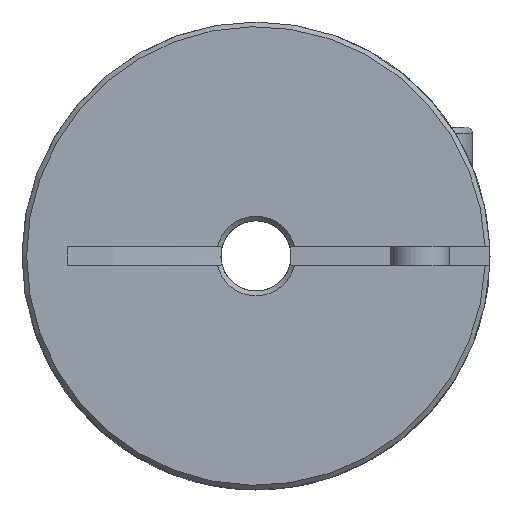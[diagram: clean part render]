
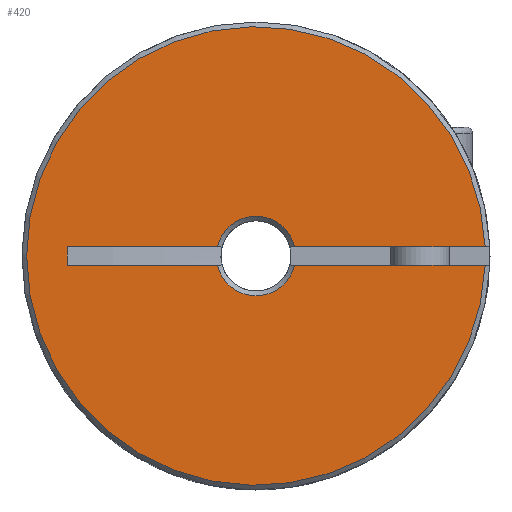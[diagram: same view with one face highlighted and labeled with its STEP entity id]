
A CAD part, left-side view. The second image highlights one B-rep face of the part: STEP entity #420.
In plain terms, the highlighted planar face has unit normal (-1, 0, 0).
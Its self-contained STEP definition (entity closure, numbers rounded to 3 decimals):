
#420 = ADVANCED_FACE( 'NONE', ( #880 ), #881, .F. );
#880 = FACE_OUTER_BOUND( '', #1315, .T. );
#881 = PLANE( '', #1316 );
#1315 = EDGE_LOOP( '', ( #2043, #2044, #2045, #2046, #2047, #2048, #2049, #2050 ) );
#1316 = AXIS2_PLACEMENT_3D( '', #2051, #2052, #2053 );
#2043 = ORIENTED_EDGE( '', *, *, #2170, .T. );
#2044 = ORIENTED_EDGE( '', *, *, #2335, .T. );
#2045 = ORIENTED_EDGE( '', *, *, #2115, .T. );
#2046 = ORIENTED_EDGE( '', *, *, #2325, .T. );
#2047 = ORIENTED_EDGE( '', *, *, #2218, .F. );
#2048 = ORIENTED_EDGE( '', *, *, #2075, .T. );
#2049 = ORIENTED_EDGE( '', *, *, #2147, .F. );
#2050 = ORIENTED_EDGE( '', *, *, #2266, .T. );
#2051 = CARTESIAN_POINT( '', ( 0., 1.5, 0. ) );
#2052 = DIRECTION( '', ( 1., 0., 0. ) );
#2053 = DIRECTION( '', ( 0., 1., 0. ) );
#2075 = EDGE_CURVE( 'NONE', #2345, #2342, #2346, .T. );
#2115 = EDGE_CURVE( 'NONE', #2410, #2411, #2412, .T. );
#2147 = EDGE_CURVE( 'NONE', #2459, #2342, #2460, .F. );
#2170 = EDGE_CURVE( 'NONE', #2498, #2496, #2499, .T. );
#2218 = EDGE_CURVE( 'NONE', #2345, #2571, #2572, .F. );
#2266 = EDGE_CURVE( 'NONE', #2459, #2498, #2641, .T. );
#2325 = EDGE_CURVE( 'NONE', #2411, #2571, #2708, .F. );
#2335 = EDGE_CURVE( 'NONE', #2496, #2410, #2717, .T. );
#2342 = VERTEX_POINT( 'NONE', #2724 );
#2345 = VERTEX_POINT( 'NONE', #2730 );
#2346 = CIRCLE( '', #2731, 1.7 );
#2410 = VERTEX_POINT( 'NONE', #2866 );
#2411 = VERTEX_POINT( 'NONE', #2867 );
#2412 = LINE( '', #2868, #2869 );
#2459 = VERTEX_POINT( 'NONE', #2925 );
#2460 = LINE( '', #2926, #2927 );
#2496 = VERTEX_POINT( 'NONE', #2965 );
#2498 = VERTEX_POINT( 'NONE', #2970 );
#2499 = LINE( '', #2971, #2972 );
#2571 = VERTEX_POINT( 'NONE', #3058 );
#2572 = LINE( '', #3059, #3060 );
#2641 = LINE( '', #3180, #3181 );
#2708 = CIRCLE( '', #3252, 9.8 );
#2717 = CIRCLE( '', #3261, 1.7 );
#2724 = CARTESIAN_POINT( '', ( 0., 1.652, -0.4 ) );
#2730 = CARTESIAN_POINT( '', ( 0., -1.652, -0.4 ) );
#2731 = AXIS2_PLACEMENT_3D( '', #3267, #3268, #3269 );
#2866 = CARTESIAN_POINT( '', ( 0., -1.652, 0.4 ) );
#2867 = CARTESIAN_POINT( '', ( 0., -9.792, 0.4 ) );
#2868 = CARTESIAN_POINT( '', ( 0., 1.5, 0.4 ) );
#2869 = VECTOR( '', #3331, 1000. );
#2925 = CARTESIAN_POINT( '', ( 0., 8.073, -0.4 ) );
#2926 = CARTESIAN_POINT( '', ( 0., -4., -0.4 ) );
#2927 = VECTOR( '', #3377, 1000. );
#2965 = CARTESIAN_POINT( '', ( 0., 1.652, 0.4 ) );
#2970 = CARTESIAN_POINT( '', ( 0., 8.073, 0.4 ) );
#2971 = CARTESIAN_POINT( '', ( 0., 1.5, 0.4 ) );
#2972 = VECTOR( '', #3416, 1000. );
#3058 = CARTESIAN_POINT( '', ( 0., -9.792, -0.4 ) );
#3059 = CARTESIAN_POINT( '', ( 0., -4., -0.4 ) );
#3060 = VECTOR( '', #3479, 1000. );
#3180 = CARTESIAN_POINT( '', ( 0., 8.073, -0.4 ) );
#3181 = VECTOR( '', #3550, 1000. );
#3252 = AXIS2_PLACEMENT_3D( '', #3600, #3601, #3602 );
#3261 = AXIS2_PLACEMENT_3D( '', #3606, #3607, #3608 );
#3267 = CARTESIAN_POINT( '', ( 0., 0., 0. ) );
#3268 = DIRECTION( '', ( 1., 0., 0. ) );
#3269 = DIRECTION( '', ( 0., 0., -1. ) );
#3331 = DIRECTION( '', ( 0., -1., 0. ) );
#3377 = DIRECTION( '', ( 0., 1., 0. ) );
#3416 = DIRECTION( '', ( 0., -1., 0. ) );
#3479 = DIRECTION( '', ( 0., 1., 0. ) );
#3550 = DIRECTION( '', ( 0., 0., 1. ) );
#3600 = CARTESIAN_POINT( '', ( 0., 0., 0. ) );
#3601 = DIRECTION( '', ( 1., 0., 0. ) );
#3602 = DIRECTION( '', ( 0., 0., -1. ) );
#3606 = CARTESIAN_POINT( '', ( 0., 0., 0. ) );
#3607 = DIRECTION( '', ( 1., 0., 0. ) );
#3608 = DIRECTION( '', ( 0., 0., -1. ) );
